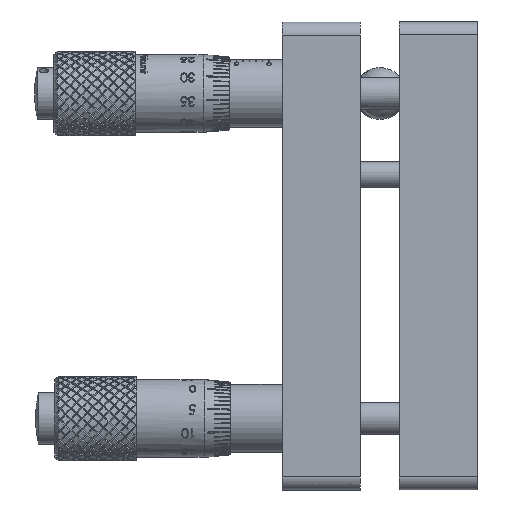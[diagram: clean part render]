
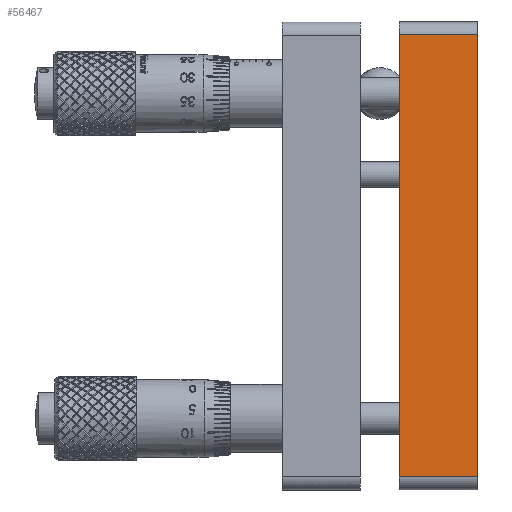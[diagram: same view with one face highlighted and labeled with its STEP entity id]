
A CAD part, left-side view. The second image highlights one B-rep face of the part: STEP entity #56467.
In plain terms, the highlighted planar face has unit normal (-1, 0, 0).
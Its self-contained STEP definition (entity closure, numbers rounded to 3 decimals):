
#18302 = DIRECTION ( 'NONE',  ( 0., 1., 0. ) ) ;
#26819 = LINE ( 'NONE', #194319, #254686 ) ;
#40959 = PLANE ( 'NONE',  #148510 ) ;
#47935 = VECTOR ( 'NONE', #290787, 1000. ) ;
#52642 = CARTESIAN_POINT ( 'NONE',  ( -58.751, -32.589, 52.818 ) ) ;
#53338 = VECTOR ( 'NONE', #267096, 1000. ) ;
#56467 = ADVANCED_FACE ( 'NONE', ( #294335 ), #40959, .F. ) ;
#62447 = EDGE_CURVE ( 'NONE', #263441, #104352, #81859, .T. ) ;
#78357 = CARTESIAN_POINT ( 'NONE',  ( -58.751, -20.589, 52.818 ) ) ;
#81859 = LINE ( 'NONE', #78357, #53338 ) ;
#104352 = VERTEX_POINT ( 'NONE', #302105 ) ;
#107913 = CARTESIAN_POINT ( 'NONE',  ( -58.751, -20.589, -17.182 ) ) ;
#132386 = EDGE_LOOP ( 'NONE', ( #179722, #329378, #197898, #282424 ) ) ;
#133846 = CARTESIAN_POINT ( 'NONE',  ( -58.751, -20.589, 52.818 ) ) ;
#148510 = AXIS2_PLACEMENT_3D ( 'NONE', #133846, #309056, #239690 ) ;
#150013 = VERTEX_POINT ( 'NONE', #298327 ) ;
#179722 = ORIENTED_EDGE ( 'NONE', *, *, #62447, .F. ) ;
#192250 = EDGE_CURVE ( 'NONE', #150013, #104352, #208790, .T. ) ;
#194319 = CARTESIAN_POINT ( 'NONE',  ( -58.751, -20.589, -17.182 ) ) ;
#197898 = ORIENTED_EDGE ( 'NONE', *, *, #251756, .T. ) ;
#202593 = CARTESIAN_POINT ( 'NONE',  ( -58.751, -32.589, -17.182 ) ) ;
#208790 = LINE ( 'NONE', #304680, #231692 ) ;
#222505 = DIRECTION ( 'NONE',  ( 0., -1., 0. ) ) ;
#222840 = EDGE_CURVE ( 'NONE', #263441, #271185, #26819, .T. ) ;
#231692 = VECTOR ( 'NONE', #18302, 1000. ) ;
#239690 = DIRECTION ( 'NONE',  ( 0., 0., -1. ) ) ;
#251756 = EDGE_CURVE ( 'NONE', #271185, #150013, #317257, .T. ) ;
#254686 = VECTOR ( 'NONE', #222505, 1000. ) ;
#263441 = VERTEX_POINT ( 'NONE', #107913 ) ;
#267096 = DIRECTION ( 'NONE',  ( 0., 0., 1. ) ) ;
#271185 = VERTEX_POINT ( 'NONE', #202593 ) ;
#282424 = ORIENTED_EDGE ( 'NONE', *, *, #192250, .T. ) ;
#290787 = DIRECTION ( 'NONE',  ( 0., 0., 1. ) ) ;
#294335 = FACE_OUTER_BOUND ( 'NONE', #132386, .T. ) ;
#298327 = CARTESIAN_POINT ( 'NONE',  ( -58.751, -32.589, 50.818 ) ) ;
#302105 = CARTESIAN_POINT ( 'NONE',  ( -58.751, -20.589, 50.818 ) ) ;
#304680 = CARTESIAN_POINT ( 'NONE',  ( -58.751, -20.589, 50.818 ) ) ;
#309056 = DIRECTION ( 'NONE',  ( 1., 0., 0. ) ) ;
#317257 = LINE ( 'NONE', #52642, #47935 ) ;
#329378 = ORIENTED_EDGE ( 'NONE', *, *, #222840, .T. ) ;
